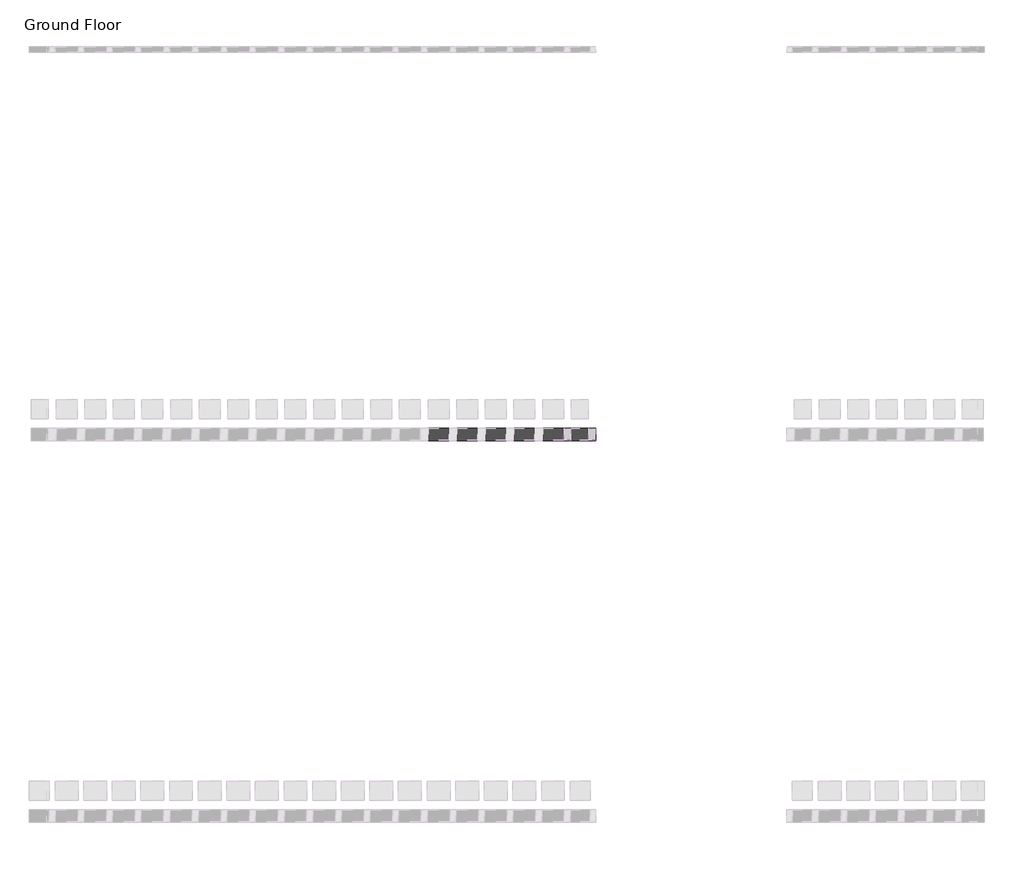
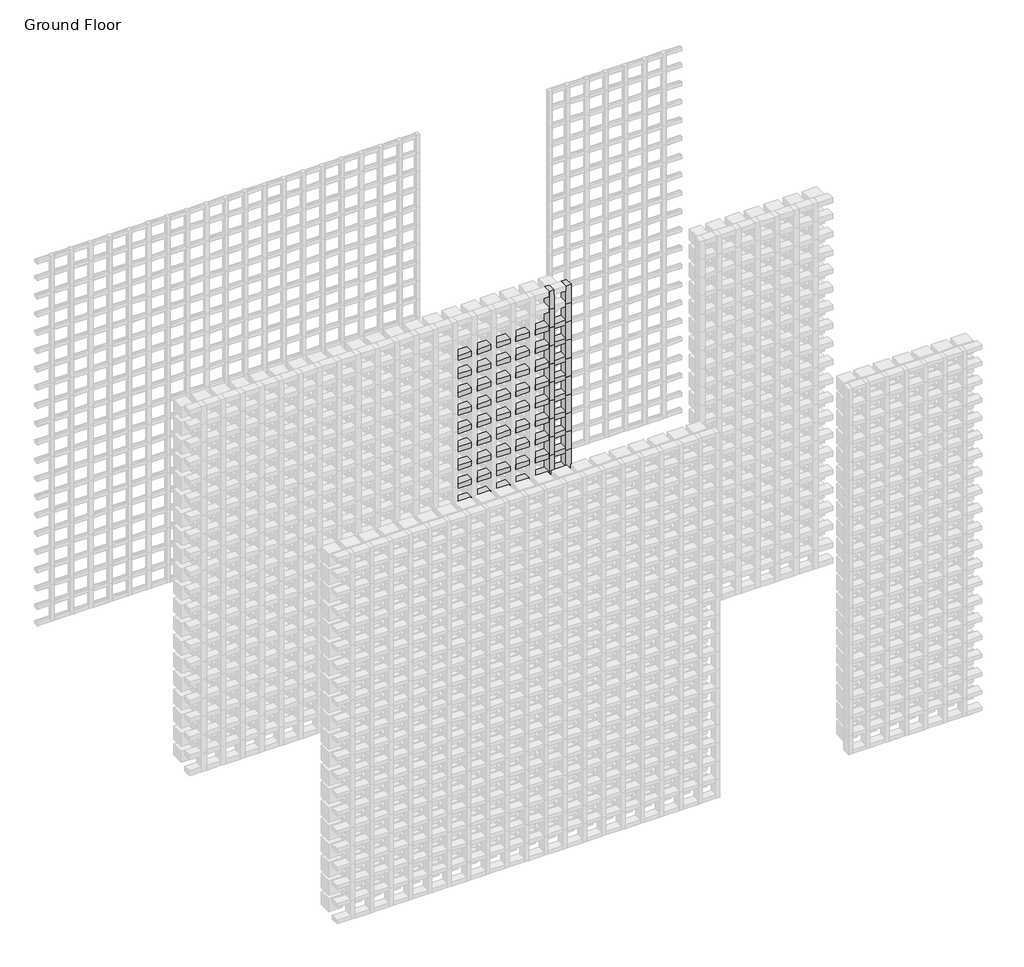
# One storey, part 93 of 350: 144 members.
"""IFC4 building model written with IfcOpenShell, lengths in millimetres."""

from ifc_helpers import new_model, si_unit, origin, place, context, project, spatial, transform, mapped, element, save
from components import rectangular_mullion_655930e9, rectangular_mullion_0b6a8654, rectangular_mullion_97e353d0, rectangular_mullion_f7732041

model = new_model("IFC4")

# Units and contexts
model_context = context("Model", 3, world=origin())
ifc_project = project(units=[si_unit("LENGTHUNIT", "METRE", prefix="MILLI")], contexts=[model_context])

# Site, building, storey
site = spatial("IfcSite", under=ifc_project)
building = spatial("IfcBuilding", under=site)
storey = spatial("IfcBuildingStorey", under=building, Name="Ground Floor", Elevation=0.0)

# Members
placement = place(None, origin())
rectangular_mullion_shape = rectangular_mullion_655930e9(model_context)
element("IfcMember", 1, ObjectType="Rectangular Mullion : Batten_Timber_Modinex_Austratus_Grid_Fascia_40x65_AlaskanYellowCedar", at=placement, inside=storey, context=model_context, shape_type="MappedRepresentation", body=[
    mapped(rectangular_mullion_shape, transform((4766.4361642, 40968.2978302, 450.0), x_axis=(1.0, 0.0, 0.0), y_axis=(0.0, -1.0, 0.0), z_axis=(0.0, 0.0, -1.0))),
])
element("IfcMember", 2, ObjectType="Rectangular Mullion : Batten_Timber_Modinex_Austratus_Grid_Fascia_40x65_AlaskanYellowCedar", at=placement, inside=storey, context=model_context, shape_type="MappedRepresentation", body=[
    mapped(rectangular_mullion_shape, transform((4766.4361642, 40968.2978302, 600.0), x_axis=(1.0, 0.0, 0.0), y_axis=(0.0, -1.0, 0.0), z_axis=(0.0, 0.0, -1.0))),
])
element("IfcMember", 3, ObjectType="Rectangular Mullion : Batten_Timber_Modinex_Austratus_Grid_Fascia_40x65_AlaskanYellowCedar", at=placement, inside=storey, context=model_context, shape_type="MappedRepresentation", body=[
    mapped(rectangular_mullion_shape, transform((4766.4361642, 40968.2978302, 750.0), x_axis=(1.0, 0.0, 0.0), y_axis=(0.0, -1.0, 0.0), z_axis=(0.0, 0.0, -1.0))),
])
element("IfcMember", 4, ObjectType="Rectangular Mullion : Batten_Timber_Modinex_Austratus_Grid_Fascia_40x65_AlaskanYellowCedar", at=placement, inside=storey, context=model_context, shape_type="MappedRepresentation", body=[
    mapped(rectangular_mullion_shape, transform((4766.4361642, 40968.2978302, 900.0), x_axis=(1.0, 0.0, 0.0), y_axis=(0.0, -1.0, 0.0), z_axis=(0.0, 0.0, -1.0))),
])
element("IfcMember", 5, ObjectType="Rectangular Mullion : Batten_Timber_Modinex_Austratus_Grid_Fascia_40x65_AlaskanYellowCedar", at=placement, inside=storey, context=model_context, shape_type="MappedRepresentation", body=[
    mapped(rectangular_mullion_shape, transform((4766.4361642, 40968.2978302, 1050.0), x_axis=(1.0, 0.0, 0.0), y_axis=(0.0, -1.0, 0.0), z_axis=(0.0, 0.0, -1.0))),
])
element("IfcMember", 6, ObjectType="Rectangular Mullion : Batten_Timber_Modinex_Austratus_Grid_Fascia_40x65_AlaskanYellowCedar", at=placement, inside=storey, context=model_context, shape_type="MappedRepresentation", body=[
    mapped(rectangular_mullion_shape, transform((4766.4361642, 40968.2978302, 1200.0), x_axis=(1.0, 0.0, 0.0), y_axis=(0.0, -1.0, 0.0), z_axis=(0.0, 0.0, -1.0))),
])
element("IfcMember", 7, ObjectType="Rectangular Mullion : Batten_Timber_Modinex_Austratus_Grid_Fascia_40x65_AlaskanYellowCedar", at=placement, inside=storey, context=model_context, shape_type="MappedRepresentation", body=[
    mapped(rectangular_mullion_shape, transform((4766.4361642, 40968.2978302, 1350.0), x_axis=(1.0, 0.0, 0.0), y_axis=(0.0, -1.0, 0.0), z_axis=(0.0, 0.0, -1.0))),
])
element("IfcMember", 8, ObjectType="Rectangular Mullion : Batten_Timber_Modinex_Austratus_Grid_Fascia_40x65_AlaskanYellowCedar", at=placement, inside=storey, context=model_context, shape_type="MappedRepresentation", body=[
    mapped(rectangular_mullion_shape, transform((4766.4361642, 40968.2978302, 1500.0), x_axis=(1.0, 0.0, 0.0), y_axis=(0.0, -1.0, 0.0), z_axis=(0.0, 0.0, -1.0))),
])
element("IfcMember", 9, ObjectType="Rectangular Mullion : Batten_Timber_Modinex_Austratus_Grid_Fascia_40x65_AlaskanYellowCedar", at=placement, inside=storey, context=model_context, shape_type="MappedRepresentation", body=[
    mapped(rectangular_mullion_shape, transform((4766.4361642, 40968.2978302, 1650.0), x_axis=(1.0, 0.0, 0.0), y_axis=(0.0, -1.0, 0.0), z_axis=(0.0, 0.0, -1.0))),
])
element("IfcMember", 10, ObjectType="Rectangular Mullion : Batten_Timber_Modinex_Austratus_Grid_Fascia_40x65_AlaskanYellowCedar", at=placement, inside=storey, context=model_context, shape_type="MappedRepresentation", body=[
    mapped(rectangular_mullion_shape, transform((4766.4361642, 40968.2978302, 1800.0), x_axis=(1.0, 0.0, 0.0), y_axis=(0.0, -1.0, 0.0), z_axis=(0.0, 0.0, -1.0))),
])
element("IfcMember", 11, ObjectType="Rectangular Mullion : Batten_Timber_Modinex_Austratus_Grid_Fascia_40x65_AlaskanYellowCedar", at=placement, inside=storey, context=model_context, shape_type="MappedRepresentation", body=[
    mapped(rectangular_mullion_shape, transform((4766.4361642, 40968.2978302, 1950.0), x_axis=(1.0, 0.0, 0.0), y_axis=(0.0, -1.0, 0.0), z_axis=(0.0, 0.0, -1.0))),
])
element("IfcMember", 12, ObjectType="Rectangular Mullion : Batten_Timber_Modinex_Austratus_Grid_Fascia_40x65_AlaskanYellowCedar", at=placement, inside=storey, context=model_context, shape_type="MappedRepresentation", body=[
    mapped(rectangular_mullion_shape, transform((4766.4361642, 40968.2978302, 2100.0), x_axis=(1.0, 0.0, 0.0), y_axis=(0.0, -1.0, 0.0), z_axis=(0.0, 0.0, -1.0))),
])
element("IfcMember", 13, ObjectType="Rectangular Mullion : Batten_Timber_Modinex_Austratus_Grid_Fascia_40x65_AlaskanYellowCedar", at=placement, inside=storey, context=model_context, shape_type="MappedRepresentation", body=[
    mapped(rectangular_mullion_shape, transform((4766.4361642, 40968.2978302, 2250.0), x_axis=(1.0, 0.0, 0.0), y_axis=(0.0, -1.0, 0.0), z_axis=(0.0, 0.0, -1.0))),
])
element("IfcMember", 14, ObjectType="Rectangular Mullion : Batten_Timber_Modinex_Austratus_Grid_Fascia_40x65_AlaskanYellowCedar", at=placement, inside=storey, context=model_context, shape_type="MappedRepresentation", body=[
    mapped(rectangular_mullion_shape, transform((4766.4361642, 40968.2978302, 2400.0), x_axis=(1.0, 0.0, 0.0), y_axis=(0.0, -1.0, 0.0), z_axis=(0.0, 0.0, -1.0))),
])
element("IfcMember", 15, ObjectType="Rectangular Mullion : Batten_Timber_Modinex_Austratus_Grid_Fascia_40x65_AlaskanYellowCedar", at=placement, inside=storey, context=model_context, shape_type="MappedRepresentation", body=[
    mapped(rectangular_mullion_shape, transform((4766.4361642, 40968.2978302, 2550.0), x_axis=(1.0, 0.0, 0.0), y_axis=(0.0, -1.0, 0.0), z_axis=(0.0, 0.0, -1.0))),
])
element("IfcMember", 16, ObjectType="Rectangular Mullion : Batten_Timber_Modinex_Austratus_Grid_Fascia_40x65_AlaskanYellowCedar", at=placement, inside=storey, context=model_context, shape_type="MappedRepresentation", body=[
    mapped(rectangular_mullion_shape, transform((4766.4361642, 40968.2978302, 2700.0), x_axis=(1.0, 0.0, 0.0), y_axis=(0.0, -1.0, 0.0), z_axis=(0.0, 0.0, -1.0))),
])
element("IfcMember", 17, ObjectType="Rectangular Mullion : Batten_Timber_Modinex_Austratus_Grid_Fascia_40x65_AlaskanYellowCedar", at=placement, inside=storey, context=model_context, shape_type="MappedRepresentation", body=[
    mapped(rectangular_mullion_shape, transform((4766.4361642, 40968.2978302, 2850.0), x_axis=(1.0, 0.0, 0.0), y_axis=(0.0, -1.0, 0.0), z_axis=(0.0, 0.0, -1.0))),
])
rectangular_mullion_2_shape = rectangular_mullion_0b6a8654(model_context)
element("IfcMember", 18, ObjectType="Rectangular Mullion : Batten_Timber_Modinex_Austratus_Grid_Fascia_40x65_AlaskanYellowCedar", at=placement, inside=storey, context=model_context, shape_type="MappedRepresentation", body=[
    mapped(rectangular_mullion_2_shape, transform((4876.4361639, 40968.2978302, 150.0), x_axis=(0.0, 0.0, 1.0), y_axis=(0.0, -1.0, 0.0), z_axis=(1.0, 0.0, 0.0))),
])
element("IfcMember", 19, ObjectType="Rectangular Mullion : Batten_Timber_Modinex_Austratus_Grid_Fascia_40x65_AlaskanYellowCedar", at=placement, inside=storey, context=model_context, shape_type="MappedRepresentation", body=[
    mapped(rectangular_mullion_2_shape, transform((4876.4361639, 40968.2978302, 300.0), x_axis=(0.0, 0.0, 1.0), y_axis=(0.0, -1.0, 0.0), z_axis=(1.0, 0.0, 0.0))),
])
element("IfcMember", 20, ObjectType="Rectangular Mullion : Batten_Timber_Modinex_Austratus_Grid_Fascia_40x65_AlaskanYellowCedar", at=placement, inside=storey, context=model_context, shape_type="MappedRepresentation", body=[
    mapped(rectangular_mullion_2_shape, transform((4876.4361639, 40968.2978302, 450.0), x_axis=(0.0, 0.0, 1.0), y_axis=(0.0, -1.0, 0.0), z_axis=(1.0, 0.0, 0.0))),
])
element("IfcMember", 21, ObjectType="Rectangular Mullion : Batten_Timber_Modinex_Austratus_Grid_Fascia_40x65_AlaskanYellowCedar", at=placement, inside=storey, context=model_context, shape_type="MappedRepresentation", body=[
    mapped(rectangular_mullion_2_shape, transform((4876.4361639, 40968.2978302, 600.0), x_axis=(0.0, 0.0, 1.0), y_axis=(0.0, -1.0, 0.0), z_axis=(1.0, 0.0, 0.0))),
])
element("IfcMember", 22, ObjectType="Rectangular Mullion : Batten_Timber_Modinex_Austratus_Grid_Fascia_40x65_AlaskanYellowCedar", at=placement, inside=storey, context=model_context, shape_type="MappedRepresentation", body=[
    mapped(rectangular_mullion_2_shape, transform((4876.4361639, 40968.2978302, 750.0), x_axis=(0.0, 0.0, 1.0), y_axis=(0.0, -1.0, 0.0), z_axis=(1.0, 0.0, 0.0))),
])
element("IfcMember", 23, ObjectType="Rectangular Mullion : Batten_Timber_Modinex_Austratus_Grid_Fascia_40x65_AlaskanYellowCedar", at=placement, inside=storey, context=model_context, shape_type="MappedRepresentation", body=[
    mapped(rectangular_mullion_2_shape, transform((4876.4361639, 40968.2978302, 900.0), x_axis=(0.0, 0.0, 1.0), y_axis=(0.0, -1.0, 0.0), z_axis=(1.0, 0.0, 0.0))),
])
element("IfcMember", 24, ObjectType="Rectangular Mullion : Batten_Timber_Modinex_Austratus_Grid_Fascia_40x65_AlaskanYellowCedar", at=placement, inside=storey, context=model_context, shape_type="MappedRepresentation", body=[
    mapped(rectangular_mullion_2_shape, transform((4876.4361639, 40968.2978302, 1050.0), x_axis=(0.0, 0.0, 1.0), y_axis=(0.0, -1.0, 0.0), z_axis=(1.0, 0.0, 0.0))),
])
element("IfcMember", 25, ObjectType="Rectangular Mullion : Batten_Timber_Modinex_Austratus_Grid_Fascia_40x65_AlaskanYellowCedar", at=placement, inside=storey, context=model_context, shape_type="MappedRepresentation", body=[
    mapped(rectangular_mullion_2_shape, transform((4876.4361639, 40968.2978302, 1200.0), x_axis=(0.0, 0.0, 1.0), y_axis=(0.0, -1.0, 0.0), z_axis=(1.0, 0.0, 0.0))),
])
element("IfcMember", 26, ObjectType="Rectangular Mullion : Batten_Timber_Modinex_Austratus_Grid_Fascia_40x65_AlaskanYellowCedar", at=placement, inside=storey, context=model_context, shape_type="MappedRepresentation", body=[
    mapped(rectangular_mullion_2_shape, transform((4876.4361639, 40968.2978302, 1350.0), x_axis=(0.0, 0.0, 1.0), y_axis=(0.0, -1.0, 0.0), z_axis=(1.0, 0.0, 0.0))),
])
element("IfcMember", 27, ObjectType="Rectangular Mullion : Batten_Timber_Modinex_Austratus_Grid_Fascia_40x65_AlaskanYellowCedar", at=placement, inside=storey, context=model_context, shape_type="MappedRepresentation", body=[
    mapped(rectangular_mullion_2_shape, transform((4876.4361639, 40968.2978302, 1500.0), x_axis=(0.0, 0.0, 1.0), y_axis=(0.0, -1.0, 0.0), z_axis=(1.0, 0.0, 0.0))),
])
element("IfcMember", 28, ObjectType="Rectangular Mullion : Batten_Timber_Modinex_Austratus_Grid_Fascia_40x65_AlaskanYellowCedar", at=placement, inside=storey, context=model_context, shape_type="MappedRepresentation", body=[
    mapped(rectangular_mullion_2_shape, transform((4876.4361639, 40968.2978302, 1650.0), x_axis=(0.0, 0.0, 1.0), y_axis=(0.0, -1.0, 0.0), z_axis=(1.0, 0.0, 0.0))),
])
element("IfcMember", 29, ObjectType="Rectangular Mullion : Batten_Timber_Modinex_Austratus_Grid_Fascia_40x65_AlaskanYellowCedar", at=placement, inside=storey, context=model_context, shape_type="MappedRepresentation", body=[
    mapped(rectangular_mullion_2_shape, transform((4876.4361639, 40968.2978302, 1800.0), x_axis=(0.0, 0.0, 1.0), y_axis=(0.0, -1.0, 0.0), z_axis=(1.0, 0.0, 0.0))),
])
element("IfcMember", 30, ObjectType="Rectangular Mullion : Batten_Timber_Modinex_Austratus_Grid_Fascia_40x65_AlaskanYellowCedar", at=placement, inside=storey, context=model_context, shape_type="MappedRepresentation", body=[
    mapped(rectangular_mullion_2_shape, transform((4876.4361639, 40968.2978302, 1950.0), x_axis=(0.0, 0.0, 1.0), y_axis=(0.0, -1.0, 0.0), z_axis=(1.0, 0.0, 0.0))),
])
element("IfcMember", 31, ObjectType="Rectangular Mullion : Batten_Timber_Modinex_Austratus_Grid_Fascia_40x65_AlaskanYellowCedar", at=placement, inside=storey, context=model_context, shape_type="MappedRepresentation", body=[
    mapped(rectangular_mullion_2_shape, transform((4876.4361639, 40968.2978302, 2100.0), x_axis=(0.0, 0.0, 1.0), y_axis=(0.0, -1.0, 0.0), z_axis=(1.0, 0.0, 0.0))),
])
element("IfcMember", 32, ObjectType="Rectangular Mullion : Batten_Timber_Modinex_Austratus_Grid_Fascia_40x65_AlaskanYellowCedar", at=placement, inside=storey, context=model_context, shape_type="MappedRepresentation", body=[
    mapped(rectangular_mullion_2_shape, transform((4876.4361639, 40968.2978302, 2250.0), x_axis=(0.0, 0.0, 1.0), y_axis=(0.0, -1.0, 0.0), z_axis=(1.0, 0.0, 0.0))),
])
element("IfcMember", 33, ObjectType="Rectangular Mullion : Batten_Timber_Modinex_Austratus_Grid_Fascia_40x65_AlaskanYellowCedar", at=placement, inside=storey, context=model_context, shape_type="MappedRepresentation", body=[
    mapped(rectangular_mullion_2_shape, transform((4876.4361639, 40968.2978302, 2400.0), x_axis=(0.0, 0.0, 1.0), y_axis=(0.0, -1.0, 0.0), z_axis=(1.0, 0.0, 0.0))),
])
element("IfcMember", 34, ObjectType="Rectangular Mullion : Batten_Timber_Modinex_Austratus_Grid_Fascia_40x65_AlaskanYellowCedar", at=placement, inside=storey, context=model_context, shape_type="MappedRepresentation", body=[
    mapped(rectangular_mullion_2_shape, transform((4876.4361639, 40968.2978302, 2550.0), x_axis=(0.0, 0.0, 1.0), y_axis=(0.0, -1.0, 0.0), z_axis=(1.0, 0.0, 0.0))),
])
element("IfcMember", 35, ObjectType="Rectangular Mullion : Batten_Timber_Modinex_Austratus_Grid_Fascia_40x65_AlaskanYellowCedar", at=placement, inside=storey, context=model_context, shape_type="MappedRepresentation", body=[
    mapped(rectangular_mullion_2_shape, transform((4876.4361639, 40968.2978302, 2700.0), x_axis=(0.0, 0.0, 1.0), y_axis=(0.0, -1.0, 0.0), z_axis=(1.0, 0.0, 0.0))),
])
rectangular_mullion_3_shape = rectangular_mullion_97e353d0(model_context)
element("IfcMember", 36, ObjectType="Rectangular Mullion : Batten_Timber_Modinex_Austratus_Grid_Fascia_40x65_AlaskanYellowCedar", at=placement, inside=storey, context=model_context, shape_type="MappedRepresentation", body=[
    mapped(rectangular_mullion_3_shape, transform((4146.4361642, 40968.2978302, 150.0), x_axis=(0.0, 0.0, 1.0), y_axis=(0.0, -1.0, 0.0), z_axis=(1.0, 0.0, 0.0))),
])
element("IfcMember", 37, ObjectType="Rectangular Mullion : Batten_Timber_Modinex_Austratus_Grid_Fascia_40x65_AlaskanYellowCedar", at=placement, inside=storey, context=model_context, shape_type="MappedRepresentation", body=[
    mapped(rectangular_mullion_3_shape, transform((4296.4361642, 40968.2978302, 150.0), x_axis=(0.0, 0.0, 1.0), y_axis=(0.0, -1.0, 0.0), z_axis=(1.0, 0.0, 0.0))),
])
element("IfcMember", 38, ObjectType="Rectangular Mullion : Batten_Timber_Modinex_Austratus_Grid_Fascia_40x65_AlaskanYellowCedar", at=placement, inside=storey, context=model_context, shape_type="MappedRepresentation", body=[
    mapped(rectangular_mullion_3_shape, transform((4446.4361642, 40968.2978302, 150.0), x_axis=(0.0, 0.0, 1.0), y_axis=(0.0, -1.0, 0.0), z_axis=(1.0, 0.0, 0.0))),
])
element("IfcMember", 39, ObjectType="Rectangular Mullion : Batten_Timber_Modinex_Austratus_Grid_Fascia_40x65_AlaskanYellowCedar", at=placement, inside=storey, context=model_context, shape_type="MappedRepresentation", body=[
    mapped(rectangular_mullion_3_shape, transform((4596.4361642, 40968.2978302, 150.0), x_axis=(0.0, 0.0, 1.0), y_axis=(0.0, -1.0, 0.0), z_axis=(1.0, 0.0, 0.0))),
])
element("IfcMember", 40, ObjectType="Rectangular Mullion : Batten_Timber_Modinex_Austratus_Grid_Fascia_40x65_AlaskanYellowCedar", at=placement, inside=storey, context=model_context, shape_type="MappedRepresentation", body=[
    mapped(rectangular_mullion_3_shape, transform((4746.4361642, 40968.2978302, 150.0), x_axis=(0.0, 0.0, 1.0), y_axis=(0.0, -1.0, 0.0), z_axis=(1.0, 0.0, 0.0))),
])
element("IfcMember", 41, ObjectType="Rectangular Mullion : Batten_Timber_Modinex_Austratus_Grid_Fascia_40x65_AlaskanYellowCedar", at=placement, inside=storey, context=model_context, shape_type="MappedRepresentation", body=[
    mapped(rectangular_mullion_3_shape, transform((4146.4361642, 40968.2978302, 300.0), x_axis=(0.0, 0.0, 1.0), y_axis=(0.0, -1.0, 0.0), z_axis=(1.0, 0.0, 0.0))),
])
element("IfcMember", 42, ObjectType="Rectangular Mullion : Batten_Timber_Modinex_Austratus_Grid_Fascia_40x65_AlaskanYellowCedar", at=placement, inside=storey, context=model_context, shape_type="MappedRepresentation", body=[
    mapped(rectangular_mullion_3_shape, transform((4296.4361642, 40968.2978302, 300.0), x_axis=(0.0, 0.0, 1.0), y_axis=(0.0, -1.0, 0.0), z_axis=(1.0, 0.0, 0.0))),
])
element("IfcMember", 43, ObjectType="Rectangular Mullion : Batten_Timber_Modinex_Austratus_Grid_Fascia_40x65_AlaskanYellowCedar", at=placement, inside=storey, context=model_context, shape_type="MappedRepresentation", body=[
    mapped(rectangular_mullion_3_shape, transform((4446.4361642, 40968.2978302, 300.0), x_axis=(0.0, 0.0, 1.0), y_axis=(0.0, -1.0, 0.0), z_axis=(1.0, 0.0, 0.0))),
])
element("IfcMember", 44, ObjectType="Rectangular Mullion : Batten_Timber_Modinex_Austratus_Grid_Fascia_40x65_AlaskanYellowCedar", at=placement, inside=storey, context=model_context, shape_type="MappedRepresentation", body=[
    mapped(rectangular_mullion_3_shape, transform((4596.4361642, 40968.2978302, 300.0), x_axis=(0.0, 0.0, 1.0), y_axis=(0.0, -1.0, 0.0), z_axis=(1.0, 0.0, 0.0))),
])
element("IfcMember", 45, ObjectType="Rectangular Mullion : Batten_Timber_Modinex_Austratus_Grid_Fascia_40x65_AlaskanYellowCedar", at=placement, inside=storey, context=model_context, shape_type="MappedRepresentation", body=[
    mapped(rectangular_mullion_3_shape, transform((4746.4361642, 40968.2978302, 300.0), x_axis=(0.0, 0.0, 1.0), y_axis=(0.0, -1.0, 0.0), z_axis=(1.0, 0.0, 0.0))),
])
element("IfcMember", 46, ObjectType="Rectangular Mullion : Batten_Timber_Modinex_Austratus_Grid_Fascia_40x65_AlaskanYellowCedar", at=placement, inside=storey, context=model_context, shape_type="MappedRepresentation", body=[
    mapped(rectangular_mullion_3_shape, transform((4146.4361642, 40968.2978302, 450.0), x_axis=(0.0, 0.0, 1.0), y_axis=(0.0, -1.0, 0.0), z_axis=(1.0, 0.0, 0.0))),
])
element("IfcMember", 47, ObjectType="Rectangular Mullion : Batten_Timber_Modinex_Austratus_Grid_Fascia_40x65_AlaskanYellowCedar", at=placement, inside=storey, context=model_context, shape_type="MappedRepresentation", body=[
    mapped(rectangular_mullion_3_shape, transform((4296.4361642, 40968.2978302, 450.0), x_axis=(0.0, 0.0, 1.0), y_axis=(0.0, -1.0, 0.0), z_axis=(1.0, 0.0, 0.0))),
])
element("IfcMember", 48, ObjectType="Rectangular Mullion : Batten_Timber_Modinex_Austratus_Grid_Fascia_40x65_AlaskanYellowCedar", at=placement, inside=storey, context=model_context, shape_type="MappedRepresentation", body=[
    mapped(rectangular_mullion_3_shape, transform((4446.4361642, 40968.2978302, 450.0), x_axis=(0.0, 0.0, 1.0), y_axis=(0.0, -1.0, 0.0), z_axis=(1.0, 0.0, 0.0))),
])
element("IfcMember", 49, ObjectType="Rectangular Mullion : Batten_Timber_Modinex_Austratus_Grid_Fascia_40x65_AlaskanYellowCedar", at=placement, inside=storey, context=model_context, shape_type="MappedRepresentation", body=[
    mapped(rectangular_mullion_3_shape, transform((4596.4361642, 40968.2978302, 450.0), x_axis=(0.0, 0.0, 1.0), y_axis=(0.0, -1.0, 0.0), z_axis=(1.0, 0.0, 0.0))),
])
element("IfcMember", 50, ObjectType="Rectangular Mullion : Batten_Timber_Modinex_Austratus_Grid_Fascia_40x65_AlaskanYellowCedar", at=placement, inside=storey, context=model_context, shape_type="MappedRepresentation", body=[
    mapped(rectangular_mullion_3_shape, transform((4746.4361642, 40968.2978302, 450.0), x_axis=(0.0, 0.0, 1.0), y_axis=(0.0, -1.0, 0.0), z_axis=(1.0, 0.0, 0.0))),
])
element("IfcMember", 51, ObjectType="Rectangular Mullion : Batten_Timber_Modinex_Austratus_Grid_Fascia_40x65_AlaskanYellowCedar", at=placement, inside=storey, context=model_context, shape_type="MappedRepresentation", body=[
    mapped(rectangular_mullion_3_shape, transform((4146.4361642, 40968.2978302, 600.0), x_axis=(0.0, 0.0, 1.0), y_axis=(0.0, -1.0, 0.0), z_axis=(1.0, 0.0, 0.0))),
])
element("IfcMember", 52, ObjectType="Rectangular Mullion : Batten_Timber_Modinex_Austratus_Grid_Fascia_40x65_AlaskanYellowCedar", at=placement, inside=storey, context=model_context, shape_type="MappedRepresentation", body=[
    mapped(rectangular_mullion_3_shape, transform((4296.4361642, 40968.2978302, 600.0), x_axis=(0.0, 0.0, 1.0), y_axis=(0.0, -1.0, 0.0), z_axis=(1.0, 0.0, 0.0))),
])
element("IfcMember", 53, ObjectType="Rectangular Mullion : Batten_Timber_Modinex_Austratus_Grid_Fascia_40x65_AlaskanYellowCedar", at=placement, inside=storey, context=model_context, shape_type="MappedRepresentation", body=[
    mapped(rectangular_mullion_3_shape, transform((4446.4361642, 40968.2978302, 600.0), x_axis=(0.0, 0.0, 1.0), y_axis=(0.0, -1.0, 0.0), z_axis=(1.0, 0.0, 0.0))),
])
element("IfcMember", 54, ObjectType="Rectangular Mullion : Batten_Timber_Modinex_Austratus_Grid_Fascia_40x65_AlaskanYellowCedar", at=placement, inside=storey, context=model_context, shape_type="MappedRepresentation", body=[
    mapped(rectangular_mullion_3_shape, transform((4596.4361642, 40968.2978302, 600.0), x_axis=(0.0, 0.0, 1.0), y_axis=(0.0, -1.0, 0.0), z_axis=(1.0, 0.0, 0.0))),
])
element("IfcMember", 55, ObjectType="Rectangular Mullion : Batten_Timber_Modinex_Austratus_Grid_Fascia_40x65_AlaskanYellowCedar", at=placement, inside=storey, context=model_context, shape_type="MappedRepresentation", body=[
    mapped(rectangular_mullion_3_shape, transform((4746.4361642, 40968.2978302, 600.0), x_axis=(0.0, 0.0, 1.0), y_axis=(0.0, -1.0, 0.0), z_axis=(1.0, 0.0, 0.0))),
])
element("IfcMember", 56, ObjectType="Rectangular Mullion : Batten_Timber_Modinex_Austratus_Grid_Fascia_40x65_AlaskanYellowCedar", at=placement, inside=storey, context=model_context, shape_type="MappedRepresentation", body=[
    mapped(rectangular_mullion_3_shape, transform((4146.4361642, 40968.2978302, 750.0), x_axis=(0.0, 0.0, 1.0), y_axis=(0.0, -1.0, 0.0), z_axis=(1.0, 0.0, 0.0))),
])
element("IfcMember", 57, ObjectType="Rectangular Mullion : Batten_Timber_Modinex_Austratus_Grid_Fascia_40x65_AlaskanYellowCedar", at=placement, inside=storey, context=model_context, shape_type="MappedRepresentation", body=[
    mapped(rectangular_mullion_3_shape, transform((4296.4361642, 40968.2978302, 750.0), x_axis=(0.0, 0.0, 1.0), y_axis=(0.0, -1.0, 0.0), z_axis=(1.0, 0.0, 0.0))),
])
element("IfcMember", 58, ObjectType="Rectangular Mullion : Batten_Timber_Modinex_Austratus_Grid_Fascia_40x65_AlaskanYellowCedar", at=placement, inside=storey, context=model_context, shape_type="MappedRepresentation", body=[
    mapped(rectangular_mullion_3_shape, transform((4446.4361642, 40968.2978302, 750.0), x_axis=(0.0, 0.0, 1.0), y_axis=(0.0, -1.0, 0.0), z_axis=(1.0, 0.0, 0.0))),
])
element("IfcMember", 59, ObjectType="Rectangular Mullion : Batten_Timber_Modinex_Austratus_Grid_Fascia_40x65_AlaskanYellowCedar", at=placement, inside=storey, context=model_context, shape_type="MappedRepresentation", body=[
    mapped(rectangular_mullion_3_shape, transform((4596.4361642, 40968.2978302, 750.0), x_axis=(0.0, 0.0, 1.0), y_axis=(0.0, -1.0, 0.0), z_axis=(1.0, 0.0, 0.0))),
])
element("IfcMember", 60, ObjectType="Rectangular Mullion : Batten_Timber_Modinex_Austratus_Grid_Fascia_40x65_AlaskanYellowCedar", at=placement, inside=storey, context=model_context, shape_type="MappedRepresentation", body=[
    mapped(rectangular_mullion_3_shape, transform((4746.4361642, 40968.2978302, 750.0), x_axis=(0.0, 0.0, 1.0), y_axis=(0.0, -1.0, 0.0), z_axis=(1.0, 0.0, 0.0))),
])
element("IfcMember", 61, ObjectType="Rectangular Mullion : Batten_Timber_Modinex_Austratus_Grid_Fascia_40x65_AlaskanYellowCedar", at=placement, inside=storey, context=model_context, shape_type="MappedRepresentation", body=[
    mapped(rectangular_mullion_3_shape, transform((4146.4361642, 40968.2978302, 900.0), x_axis=(0.0, 0.0, 1.0), y_axis=(0.0, -1.0, 0.0), z_axis=(1.0, 0.0, 0.0))),
])
element("IfcMember", 62, ObjectType="Rectangular Mullion : Batten_Timber_Modinex_Austratus_Grid_Fascia_40x65_AlaskanYellowCedar", at=placement, inside=storey, context=model_context, shape_type="MappedRepresentation", body=[
    mapped(rectangular_mullion_3_shape, transform((4296.4361642, 40968.2978302, 900.0), x_axis=(0.0, 0.0, 1.0), y_axis=(0.0, -1.0, 0.0), z_axis=(1.0, 0.0, 0.0))),
])
element("IfcMember", 63, ObjectType="Rectangular Mullion : Batten_Timber_Modinex_Austratus_Grid_Fascia_40x65_AlaskanYellowCedar", at=placement, inside=storey, context=model_context, shape_type="MappedRepresentation", body=[
    mapped(rectangular_mullion_3_shape, transform((4446.4361642, 40968.2978302, 900.0), x_axis=(0.0, 0.0, 1.0), y_axis=(0.0, -1.0, 0.0), z_axis=(1.0, 0.0, 0.0))),
])
element("IfcMember", 64, ObjectType="Rectangular Mullion : Batten_Timber_Modinex_Austratus_Grid_Fascia_40x65_AlaskanYellowCedar", at=placement, inside=storey, context=model_context, shape_type="MappedRepresentation", body=[
    mapped(rectangular_mullion_3_shape, transform((4596.4361642, 40968.2978302, 900.0), x_axis=(0.0, 0.0, 1.0), y_axis=(0.0, -1.0, 0.0), z_axis=(1.0, 0.0, 0.0))),
])
element("IfcMember", 65, ObjectType="Rectangular Mullion : Batten_Timber_Modinex_Austratus_Grid_Fascia_40x65_AlaskanYellowCedar", at=placement, inside=storey, context=model_context, shape_type="MappedRepresentation", body=[
    mapped(rectangular_mullion_3_shape, transform((4746.4361642, 40968.2978302, 900.0), x_axis=(0.0, 0.0, 1.0), y_axis=(0.0, -1.0, 0.0), z_axis=(1.0, 0.0, 0.0))),
])
element("IfcMember", 66, ObjectType="Rectangular Mullion : Batten_Timber_Modinex_Austratus_Grid_Fascia_40x65_AlaskanYellowCedar", at=placement, inside=storey, context=model_context, shape_type="MappedRepresentation", body=[
    mapped(rectangular_mullion_3_shape, transform((4146.4361642, 40968.2978302, 1050.0), x_axis=(0.0, 0.0, 1.0), y_axis=(0.0, -1.0, 0.0), z_axis=(1.0, 0.0, 0.0))),
])
element("IfcMember", 67, ObjectType="Rectangular Mullion : Batten_Timber_Modinex_Austratus_Grid_Fascia_40x65_AlaskanYellowCedar", at=placement, inside=storey, context=model_context, shape_type="MappedRepresentation", body=[
    mapped(rectangular_mullion_3_shape, transform((4296.4361642, 40968.2978302, 1050.0), x_axis=(0.0, 0.0, 1.0), y_axis=(0.0, -1.0, 0.0), z_axis=(1.0, 0.0, 0.0))),
])
element("IfcMember", 68, ObjectType="Rectangular Mullion : Batten_Timber_Modinex_Austratus_Grid_Fascia_40x65_AlaskanYellowCedar", at=placement, inside=storey, context=model_context, shape_type="MappedRepresentation", body=[
    mapped(rectangular_mullion_3_shape, transform((4446.4361642, 40968.2978302, 1050.0), x_axis=(0.0, 0.0, 1.0), y_axis=(0.0, -1.0, 0.0), z_axis=(1.0, 0.0, 0.0))),
])
element("IfcMember", 69, ObjectType="Rectangular Mullion : Batten_Timber_Modinex_Austratus_Grid_Fascia_40x65_AlaskanYellowCedar", at=placement, inside=storey, context=model_context, shape_type="MappedRepresentation", body=[
    mapped(rectangular_mullion_3_shape, transform((4596.4361642, 40968.2978302, 1050.0), x_axis=(0.0, 0.0, 1.0), y_axis=(0.0, -1.0, 0.0), z_axis=(1.0, 0.0, 0.0))),
])
element("IfcMember", 70, ObjectType="Rectangular Mullion : Batten_Timber_Modinex_Austratus_Grid_Fascia_40x65_AlaskanYellowCedar", at=placement, inside=storey, context=model_context, shape_type="MappedRepresentation", body=[
    mapped(rectangular_mullion_3_shape, transform((4746.4361642, 40968.2978302, 1050.0), x_axis=(0.0, 0.0, 1.0), y_axis=(0.0, -1.0, 0.0), z_axis=(1.0, 0.0, 0.0))),
])
element("IfcMember", 71, ObjectType="Rectangular Mullion : Batten_Timber_Modinex_Austratus_Grid_Fascia_40x65_AlaskanYellowCedar", at=placement, inside=storey, context=model_context, shape_type="MappedRepresentation", body=[
    mapped(rectangular_mullion_3_shape, transform((4146.4361642, 40968.2978302, 1200.0), x_axis=(0.0, 0.0, 1.0), y_axis=(0.0, -1.0, 0.0), z_axis=(1.0, 0.0, 0.0))),
])
element("IfcMember", 72, ObjectType="Rectangular Mullion : Batten_Timber_Modinex_Austratus_Grid_Fascia_40x65_AlaskanYellowCedar", at=placement, inside=storey, context=model_context, shape_type="MappedRepresentation", body=[
    mapped(rectangular_mullion_3_shape, transform((4296.4361642, 40968.2978302, 1200.0), x_axis=(0.0, 0.0, 1.0), y_axis=(0.0, -1.0, 0.0), z_axis=(1.0, 0.0, 0.0))),
])
element("IfcMember", 73, ObjectType="Rectangular Mullion : Batten_Timber_Modinex_Austratus_Grid_Fascia_40x65_AlaskanYellowCedar", at=placement, inside=storey, context=model_context, shape_type="MappedRepresentation", body=[
    mapped(rectangular_mullion_3_shape, transform((4446.4361642, 40968.2978302, 1200.0), x_axis=(0.0, 0.0, 1.0), y_axis=(0.0, -1.0, 0.0), z_axis=(1.0, 0.0, 0.0))),
])
element("IfcMember", 74, ObjectType="Rectangular Mullion : Batten_Timber_Modinex_Austratus_Grid_Fascia_40x65_AlaskanYellowCedar", at=placement, inside=storey, context=model_context, shape_type="MappedRepresentation", body=[
    mapped(rectangular_mullion_3_shape, transform((4596.4361642, 40968.2978302, 1200.0), x_axis=(0.0, 0.0, 1.0), y_axis=(0.0, -1.0, 0.0), z_axis=(1.0, 0.0, 0.0))),
])
element("IfcMember", 75, ObjectType="Rectangular Mullion : Batten_Timber_Modinex_Austratus_Grid_Fascia_40x65_AlaskanYellowCedar", at=placement, inside=storey, context=model_context, shape_type="MappedRepresentation", body=[
    mapped(rectangular_mullion_3_shape, transform((4746.4361642, 40968.2978302, 1200.0), x_axis=(0.0, 0.0, 1.0), y_axis=(0.0, -1.0, 0.0), z_axis=(1.0, 0.0, 0.0))),
])
element("IfcMember", 76, ObjectType="Rectangular Mullion : Batten_Timber_Modinex_Austratus_Grid_Fascia_40x65_AlaskanYellowCedar", at=placement, inside=storey, context=model_context, shape_type="MappedRepresentation", body=[
    mapped(rectangular_mullion_3_shape, transform((4146.4361642, 40968.2978302, 1350.0), x_axis=(0.0, 0.0, 1.0), y_axis=(0.0, -1.0, 0.0), z_axis=(1.0, 0.0, 0.0))),
])
element("IfcMember", 77, ObjectType="Rectangular Mullion : Batten_Timber_Modinex_Austratus_Grid_Fascia_40x65_AlaskanYellowCedar", at=placement, inside=storey, context=model_context, shape_type="MappedRepresentation", body=[
    mapped(rectangular_mullion_3_shape, transform((4296.4361642, 40968.2978302, 1350.0), x_axis=(0.0, 0.0, 1.0), y_axis=(0.0, -1.0, 0.0), z_axis=(1.0, 0.0, 0.0))),
])
element("IfcMember", 78, ObjectType="Rectangular Mullion : Batten_Timber_Modinex_Austratus_Grid_Fascia_40x65_AlaskanYellowCedar", at=placement, inside=storey, context=model_context, shape_type="MappedRepresentation", body=[
    mapped(rectangular_mullion_3_shape, transform((4446.4361642, 40968.2978302, 1350.0), x_axis=(0.0, 0.0, 1.0), y_axis=(0.0, -1.0, 0.0), z_axis=(1.0, 0.0, 0.0))),
])
element("IfcMember", 79, ObjectType="Rectangular Mullion : Batten_Timber_Modinex_Austratus_Grid_Fascia_40x65_AlaskanYellowCedar", at=placement, inside=storey, context=model_context, shape_type="MappedRepresentation", body=[
    mapped(rectangular_mullion_3_shape, transform((4596.4361642, 40968.2978302, 1350.0), x_axis=(0.0, 0.0, 1.0), y_axis=(0.0, -1.0, 0.0), z_axis=(1.0, 0.0, 0.0))),
])
element("IfcMember", 80, ObjectType="Rectangular Mullion : Batten_Timber_Modinex_Austratus_Grid_Fascia_40x65_AlaskanYellowCedar", at=placement, inside=storey, context=model_context, shape_type="MappedRepresentation", body=[
    mapped(rectangular_mullion_3_shape, transform((4746.4361642, 40968.2978302, 1350.0), x_axis=(0.0, 0.0, 1.0), y_axis=(0.0, -1.0, 0.0), z_axis=(1.0, 0.0, 0.0))),
])
element("IfcMember", 81, ObjectType="Rectangular Mullion : Batten_Timber_Modinex_Austratus_Grid_Fascia_40x65_AlaskanYellowCedar", at=placement, inside=storey, context=model_context, shape_type="MappedRepresentation", body=[
    mapped(rectangular_mullion_3_shape, transform((4146.4361642, 40968.2978302, 1500.0), x_axis=(0.0, 0.0, 1.0), y_axis=(0.0, -1.0, 0.0), z_axis=(1.0, 0.0, 0.0))),
])
element("IfcMember", 82, ObjectType="Rectangular Mullion : Batten_Timber_Modinex_Austratus_Grid_Fascia_40x65_AlaskanYellowCedar", at=placement, inside=storey, context=model_context, shape_type="MappedRepresentation", body=[
    mapped(rectangular_mullion_3_shape, transform((4296.4361642, 40968.2978302, 1500.0), x_axis=(0.0, 0.0, 1.0), y_axis=(0.0, -1.0, 0.0), z_axis=(1.0, 0.0, 0.0))),
])
element("IfcMember", 83, ObjectType="Rectangular Mullion : Batten_Timber_Modinex_Austratus_Grid_Fascia_40x65_AlaskanYellowCedar", at=placement, inside=storey, context=model_context, shape_type="MappedRepresentation", body=[
    mapped(rectangular_mullion_3_shape, transform((4446.4361642, 40968.2978302, 1500.0), x_axis=(0.0, 0.0, 1.0), y_axis=(0.0, -1.0, 0.0), z_axis=(1.0, 0.0, 0.0))),
])
element("IfcMember", 84, ObjectType="Rectangular Mullion : Batten_Timber_Modinex_Austratus_Grid_Fascia_40x65_AlaskanYellowCedar", at=placement, inside=storey, context=model_context, shape_type="MappedRepresentation", body=[
    mapped(rectangular_mullion_3_shape, transform((4596.4361642, 40968.2978302, 1500.0), x_axis=(0.0, 0.0, 1.0), y_axis=(0.0, -1.0, 0.0), z_axis=(1.0, 0.0, 0.0))),
])
element("IfcMember", 85, ObjectType="Rectangular Mullion : Batten_Timber_Modinex_Austratus_Grid_Fascia_40x65_AlaskanYellowCedar", at=placement, inside=storey, context=model_context, shape_type="MappedRepresentation", body=[
    mapped(rectangular_mullion_3_shape, transform((4746.4361642, 40968.2978302, 1500.0), x_axis=(0.0, 0.0, 1.0), y_axis=(0.0, -1.0, 0.0), z_axis=(1.0, 0.0, 0.0))),
])
element("IfcMember", 86, ObjectType="Rectangular Mullion : Batten_Timber_Modinex_Austratus_Grid_Fascia_40x65_AlaskanYellowCedar", at=placement, inside=storey, context=model_context, shape_type="MappedRepresentation", body=[
    mapped(rectangular_mullion_3_shape, transform((4146.4361642, 40968.2978302, 1650.0), x_axis=(0.0, 0.0, 1.0), y_axis=(0.0, -1.0, 0.0), z_axis=(1.0, 0.0, 0.0))),
])
element("IfcMember", 87, ObjectType="Rectangular Mullion : Batten_Timber_Modinex_Austratus_Grid_Fascia_40x65_AlaskanYellowCedar", at=placement, inside=storey, context=model_context, shape_type="MappedRepresentation", body=[
    mapped(rectangular_mullion_3_shape, transform((4296.4361642, 40968.2978302, 1650.0), x_axis=(0.0, 0.0, 1.0), y_axis=(0.0, -1.0, 0.0), z_axis=(1.0, 0.0, 0.0))),
])
element("IfcMember", 88, ObjectType="Rectangular Mullion : Batten_Timber_Modinex_Austratus_Grid_Fascia_40x65_AlaskanYellowCedar", at=placement, inside=storey, context=model_context, shape_type="MappedRepresentation", body=[
    mapped(rectangular_mullion_3_shape, transform((4446.4361642, 40968.2978302, 1650.0), x_axis=(0.0, 0.0, 1.0), y_axis=(0.0, -1.0, 0.0), z_axis=(1.0, 0.0, 0.0))),
])
element("IfcMember", 89, ObjectType="Rectangular Mullion : Batten_Timber_Modinex_Austratus_Grid_Fascia_40x65_AlaskanYellowCedar", at=placement, inside=storey, context=model_context, shape_type="MappedRepresentation", body=[
    mapped(rectangular_mullion_3_shape, transform((4596.4361642, 40968.2978302, 1650.0), x_axis=(0.0, 0.0, 1.0), y_axis=(0.0, -1.0, 0.0), z_axis=(1.0, 0.0, 0.0))),
])
element("IfcMember", 90, ObjectType="Rectangular Mullion : Batten_Timber_Modinex_Austratus_Grid_Fascia_40x65_AlaskanYellowCedar", at=placement, inside=storey, context=model_context, shape_type="MappedRepresentation", body=[
    mapped(rectangular_mullion_3_shape, transform((4746.4361642, 40968.2978302, 1650.0), x_axis=(0.0, 0.0, 1.0), y_axis=(0.0, -1.0, 0.0), z_axis=(1.0, 0.0, 0.0))),
])
element("IfcMember", 91, ObjectType="Rectangular Mullion : Batten_Timber_Modinex_Austratus_Grid_Fascia_40x65_AlaskanYellowCedar", at=placement, inside=storey, context=model_context, shape_type="MappedRepresentation", body=[
    mapped(rectangular_mullion_3_shape, transform((4146.4361642, 40968.2978302, 1800.0), x_axis=(0.0, 0.0, 1.0), y_axis=(0.0, -1.0, 0.0), z_axis=(1.0, 0.0, 0.0))),
])
element("IfcMember", 92, ObjectType="Rectangular Mullion : Batten_Timber_Modinex_Austratus_Grid_Fascia_40x65_AlaskanYellowCedar", at=placement, inside=storey, context=model_context, shape_type="MappedRepresentation", body=[
    mapped(rectangular_mullion_3_shape, transform((4296.4361642, 40968.2978302, 1800.0), x_axis=(0.0, 0.0, 1.0), y_axis=(0.0, -1.0, 0.0), z_axis=(1.0, 0.0, 0.0))),
])
element("IfcMember", 93, ObjectType="Rectangular Mullion : Batten_Timber_Modinex_Austratus_Grid_Fascia_40x65_AlaskanYellowCedar", at=placement, inside=storey, context=model_context, shape_type="MappedRepresentation", body=[
    mapped(rectangular_mullion_3_shape, transform((4446.4361642, 40968.2978302, 1800.0), x_axis=(0.0, 0.0, 1.0), y_axis=(0.0, -1.0, 0.0), z_axis=(1.0, 0.0, 0.0))),
])
element("IfcMember", 94, ObjectType="Rectangular Mullion : Batten_Timber_Modinex_Austratus_Grid_Fascia_40x65_AlaskanYellowCedar", at=placement, inside=storey, context=model_context, shape_type="MappedRepresentation", body=[
    mapped(rectangular_mullion_3_shape, transform((4596.4361642, 40968.2978302, 1800.0), x_axis=(0.0, 0.0, 1.0), y_axis=(0.0, -1.0, 0.0), z_axis=(1.0, 0.0, 0.0))),
])
element("IfcMember", 95, ObjectType="Rectangular Mullion : Batten_Timber_Modinex_Austratus_Grid_Fascia_40x65_AlaskanYellowCedar", at=placement, inside=storey, context=model_context, shape_type="MappedRepresentation", body=[
    mapped(rectangular_mullion_3_shape, transform((4746.4361642, 40968.2978302, 1800.0), x_axis=(0.0, 0.0, 1.0), y_axis=(0.0, -1.0, 0.0), z_axis=(1.0, 0.0, 0.0))),
])
element("IfcMember", 96, ObjectType="Rectangular Mullion : Batten_Timber_Modinex_Austratus_Grid_Fascia_40x65_AlaskanYellowCedar", at=placement, inside=storey, context=model_context, shape_type="MappedRepresentation", body=[
    mapped(rectangular_mullion_3_shape, transform((4146.4361642, 40968.2978302, 1950.0), x_axis=(0.0, 0.0, 1.0), y_axis=(0.0, -1.0, 0.0), z_axis=(1.0, 0.0, 0.0))),
])
element("IfcMember", 97, ObjectType="Rectangular Mullion : Batten_Timber_Modinex_Austratus_Grid_Fascia_40x65_AlaskanYellowCedar", at=placement, inside=storey, context=model_context, shape_type="MappedRepresentation", body=[
    mapped(rectangular_mullion_3_shape, transform((4296.4361642, 40968.2978302, 1950.0), x_axis=(0.0, 0.0, 1.0), y_axis=(0.0, -1.0, 0.0), z_axis=(1.0, 0.0, 0.0))),
])
element("IfcMember", 98, ObjectType="Rectangular Mullion : Batten_Timber_Modinex_Austratus_Grid_Fascia_40x65_AlaskanYellowCedar", at=placement, inside=storey, context=model_context, shape_type="MappedRepresentation", body=[
    mapped(rectangular_mullion_3_shape, transform((4446.4361642, 40968.2978302, 1950.0), x_axis=(0.0, 0.0, 1.0), y_axis=(0.0, -1.0, 0.0), z_axis=(1.0, 0.0, 0.0))),
])
element("IfcMember", 99, ObjectType="Rectangular Mullion : Batten_Timber_Modinex_Austratus_Grid_Fascia_40x65_AlaskanYellowCedar", at=placement, inside=storey, context=model_context, shape_type="MappedRepresentation", body=[
    mapped(rectangular_mullion_3_shape, transform((4596.4361642, 40968.2978302, 1950.0), x_axis=(0.0, 0.0, 1.0), y_axis=(0.0, -1.0, 0.0), z_axis=(1.0, 0.0, 0.0))),
])
element("IfcMember", 100, ObjectType="Rectangular Mullion : Batten_Timber_Modinex_Austratus_Grid_Fascia_40x65_AlaskanYellowCedar", at=placement, inside=storey, context=model_context, shape_type="MappedRepresentation", body=[
    mapped(rectangular_mullion_3_shape, transform((4746.4361642, 40968.2978302, 1950.0), x_axis=(0.0, 0.0, 1.0), y_axis=(0.0, -1.0, 0.0), z_axis=(1.0, 0.0, 0.0))),
])
element("IfcMember", 101, ObjectType="Rectangular Mullion : Batten_Timber_Modinex_Austratus_Grid_Fascia_40x65_AlaskanYellowCedar", at=placement, inside=storey, context=model_context, shape_type="MappedRepresentation", body=[
    mapped(rectangular_mullion_3_shape, transform((4146.4361642, 40968.2978302, 2100.0), x_axis=(0.0, 0.0, 1.0), y_axis=(0.0, -1.0, 0.0), z_axis=(1.0, 0.0, 0.0))),
])
element("IfcMember", 102, ObjectType="Rectangular Mullion : Batten_Timber_Modinex_Austratus_Grid_Fascia_40x65_AlaskanYellowCedar", at=placement, inside=storey, context=model_context, shape_type="MappedRepresentation", body=[
    mapped(rectangular_mullion_3_shape, transform((4296.4361642, 40968.2978302, 2100.0), x_axis=(0.0, 0.0, 1.0), y_axis=(0.0, -1.0, 0.0), z_axis=(1.0, 0.0, 0.0))),
])
element("IfcMember", 103, ObjectType="Rectangular Mullion : Batten_Timber_Modinex_Austratus_Grid_Fascia_40x65_AlaskanYellowCedar", at=placement, inside=storey, context=model_context, shape_type="MappedRepresentation", body=[
    mapped(rectangular_mullion_3_shape, transform((4446.4361642, 40968.2978302, 2100.0), x_axis=(0.0, 0.0, 1.0), y_axis=(0.0, -1.0, 0.0), z_axis=(1.0, 0.0, 0.0))),
])
element("IfcMember", 104, ObjectType="Rectangular Mullion : Batten_Timber_Modinex_Austratus_Grid_Fascia_40x65_AlaskanYellowCedar", at=placement, inside=storey, context=model_context, shape_type="MappedRepresentation", body=[
    mapped(rectangular_mullion_3_shape, transform((4596.4361642, 40968.2978302, 2100.0), x_axis=(0.0, 0.0, 1.0), y_axis=(0.0, -1.0, 0.0), z_axis=(1.0, 0.0, 0.0))),
])
element("IfcMember", 105, ObjectType="Rectangular Mullion : Batten_Timber_Modinex_Austratus_Grid_Fascia_40x65_AlaskanYellowCedar", at=placement, inside=storey, context=model_context, shape_type="MappedRepresentation", body=[
    mapped(rectangular_mullion_3_shape, transform((4746.4361642, 40968.2978302, 2100.0), x_axis=(0.0, 0.0, 1.0), y_axis=(0.0, -1.0, 0.0), z_axis=(1.0, 0.0, 0.0))),
])
element("IfcMember", 106, ObjectType="Rectangular Mullion : Batten_Timber_Modinex_Austratus_Grid_Fascia_40x65_AlaskanYellowCedar", at=placement, inside=storey, context=model_context, shape_type="MappedRepresentation", body=[
    mapped(rectangular_mullion_3_shape, transform((4146.4361642, 40968.2978302, 2250.0), x_axis=(0.0, 0.0, 1.0), y_axis=(0.0, -1.0, 0.0), z_axis=(1.0, 0.0, 0.0))),
])
element("IfcMember", 107, ObjectType="Rectangular Mullion : Batten_Timber_Modinex_Austratus_Grid_Fascia_40x65_AlaskanYellowCedar", at=placement, inside=storey, context=model_context, shape_type="MappedRepresentation", body=[
    mapped(rectangular_mullion_3_shape, transform((4296.4361642, 40968.2978302, 2250.0), x_axis=(0.0, 0.0, 1.0), y_axis=(0.0, -1.0, 0.0), z_axis=(1.0, 0.0, 0.0))),
])
element("IfcMember", 108, ObjectType="Rectangular Mullion : Batten_Timber_Modinex_Austratus_Grid_Fascia_40x65_AlaskanYellowCedar", at=placement, inside=storey, context=model_context, shape_type="MappedRepresentation", body=[
    mapped(rectangular_mullion_3_shape, transform((4446.4361642, 40968.2978302, 2250.0), x_axis=(0.0, 0.0, 1.0), y_axis=(0.0, -1.0, 0.0), z_axis=(1.0, 0.0, 0.0))),
])
element("IfcMember", 109, ObjectType="Rectangular Mullion : Batten_Timber_Modinex_Austratus_Grid_Fascia_40x65_AlaskanYellowCedar", at=placement, inside=storey, context=model_context, shape_type="MappedRepresentation", body=[
    mapped(rectangular_mullion_3_shape, transform((4596.4361642, 40968.2978302, 2250.0), x_axis=(0.0, 0.0, 1.0), y_axis=(0.0, -1.0, 0.0), z_axis=(1.0, 0.0, 0.0))),
])
element("IfcMember", 110, ObjectType="Rectangular Mullion : Batten_Timber_Modinex_Austratus_Grid_Fascia_40x65_AlaskanYellowCedar", at=placement, inside=storey, context=model_context, shape_type="MappedRepresentation", body=[
    mapped(rectangular_mullion_3_shape, transform((4746.4361642, 40968.2978302, 2250.0), x_axis=(0.0, 0.0, 1.0), y_axis=(0.0, -1.0, 0.0), z_axis=(1.0, 0.0, 0.0))),
])
element("IfcMember", 111, ObjectType="Rectangular Mullion : Batten_Timber_Modinex_Austratus_Grid_Fascia_40x65_AlaskanYellowCedar", at=placement, inside=storey, context=model_context, shape_type="MappedRepresentation", body=[
    mapped(rectangular_mullion_3_shape, transform((4146.4361642, 40968.2978302, 2400.0), x_axis=(0.0, 0.0, 1.0), y_axis=(0.0, -1.0, 0.0), z_axis=(1.0, 0.0, 0.0))),
])
element("IfcMember", 112, ObjectType="Rectangular Mullion : Batten_Timber_Modinex_Austratus_Grid_Fascia_40x65_AlaskanYellowCedar", at=placement, inside=storey, context=model_context, shape_type="MappedRepresentation", body=[
    mapped(rectangular_mullion_3_shape, transform((4296.4361642, 40968.2978302, 2400.0), x_axis=(0.0, 0.0, 1.0), y_axis=(0.0, -1.0, 0.0), z_axis=(1.0, 0.0, 0.0))),
])
element("IfcMember", 113, ObjectType="Rectangular Mullion : Batten_Timber_Modinex_Austratus_Grid_Fascia_40x65_AlaskanYellowCedar", at=placement, inside=storey, context=model_context, shape_type="MappedRepresentation", body=[
    mapped(rectangular_mullion_3_shape, transform((4446.4361642, 40968.2978302, 2400.0), x_axis=(0.0, 0.0, 1.0), y_axis=(0.0, -1.0, 0.0), z_axis=(1.0, 0.0, 0.0))),
])
element("IfcMember", 114, ObjectType="Rectangular Mullion : Batten_Timber_Modinex_Austratus_Grid_Fascia_40x65_AlaskanYellowCedar", at=placement, inside=storey, context=model_context, shape_type="MappedRepresentation", body=[
    mapped(rectangular_mullion_3_shape, transform((4596.4361642, 40968.2978302, 2400.0), x_axis=(0.0, 0.0, 1.0), y_axis=(0.0, -1.0, 0.0), z_axis=(1.0, 0.0, 0.0))),
])
element("IfcMember", 115, ObjectType="Rectangular Mullion : Batten_Timber_Modinex_Austratus_Grid_Fascia_40x65_AlaskanYellowCedar", at=placement, inside=storey, context=model_context, shape_type="MappedRepresentation", body=[
    mapped(rectangular_mullion_3_shape, transform((4746.4361642, 40968.2978302, 2400.0), x_axis=(0.0, 0.0, 1.0), y_axis=(0.0, -1.0, 0.0), z_axis=(1.0, 0.0, 0.0))),
])
element("IfcMember", 116, ObjectType="Rectangular Mullion : Batten_Timber_Modinex_Austratus_Grid_Fascia_40x65_AlaskanYellowCedar", at=placement, inside=storey, context=model_context, shape_type="MappedRepresentation", body=[
    mapped(rectangular_mullion_3_shape, transform((4146.4361642, 40968.2978302, 2550.0), x_axis=(0.0, 0.0, 1.0), y_axis=(0.0, -1.0, 0.0), z_axis=(1.0, 0.0, 0.0))),
])
element("IfcMember", 117, ObjectType="Rectangular Mullion : Batten_Timber_Modinex_Austratus_Grid_Fascia_40x65_AlaskanYellowCedar", at=placement, inside=storey, context=model_context, shape_type="MappedRepresentation", body=[
    mapped(rectangular_mullion_3_shape, transform((4296.4361642, 40968.2978302, 2550.0), x_axis=(0.0, 0.0, 1.0), y_axis=(0.0, -1.0, 0.0), z_axis=(1.0, 0.0, 0.0))),
])
element("IfcMember", 118, ObjectType="Rectangular Mullion : Batten_Timber_Modinex_Austratus_Grid_Fascia_40x65_AlaskanYellowCedar", at=placement, inside=storey, context=model_context, shape_type="MappedRepresentation", body=[
    mapped(rectangular_mullion_3_shape, transform((4446.4361642, 40968.2978302, 2550.0), x_axis=(0.0, 0.0, 1.0), y_axis=(0.0, -1.0, 0.0), z_axis=(1.0, 0.0, 0.0))),
])
element("IfcMember", 119, ObjectType="Rectangular Mullion : Batten_Timber_Modinex_Austratus_Grid_Fascia_40x65_AlaskanYellowCedar", at=placement, inside=storey, context=model_context, shape_type="MappedRepresentation", body=[
    mapped(rectangular_mullion_3_shape, transform((4596.4361642, 40968.2978302, 2550.0), x_axis=(0.0, 0.0, 1.0), y_axis=(0.0, -1.0, 0.0), z_axis=(1.0, 0.0, 0.0))),
])
element("IfcMember", 120, ObjectType="Rectangular Mullion : Batten_Timber_Modinex_Austratus_Grid_Fascia_40x65_AlaskanYellowCedar", at=placement, inside=storey, context=model_context, shape_type="MappedRepresentation", body=[
    mapped(rectangular_mullion_3_shape, transform((4746.4361642, 40968.2978302, 2550.0), x_axis=(0.0, 0.0, 1.0), y_axis=(0.0, -1.0, 0.0), z_axis=(1.0, 0.0, 0.0))),
])
element("IfcMember", 121, ObjectType="Rectangular Mullion : Batten_Timber_Modinex_Austratus_Grid_Fascia_40x65_AlaskanYellowCedar", at=placement, inside=storey, context=model_context, shape_type="MappedRepresentation", body=[
    mapped(rectangular_mullion_3_shape, transform((4146.4361642, 40968.2978302, 2700.0), x_axis=(0.0, 0.0, 1.0), y_axis=(0.0, -1.0, 0.0), z_axis=(1.0, 0.0, 0.0))),
])
element("IfcMember", 122, ObjectType="Rectangular Mullion : Batten_Timber_Modinex_Austratus_Grid_Fascia_40x65_AlaskanYellowCedar", at=placement, inside=storey, context=model_context, shape_type="MappedRepresentation", body=[
    mapped(rectangular_mullion_3_shape, transform((4296.4361642, 40968.2978302, 2700.0), x_axis=(0.0, 0.0, 1.0), y_axis=(0.0, -1.0, 0.0), z_axis=(1.0, 0.0, 0.0))),
])
element("IfcMember", 123, ObjectType="Rectangular Mullion : Batten_Timber_Modinex_Austratus_Grid_Fascia_40x65_AlaskanYellowCedar", at=placement, inside=storey, context=model_context, shape_type="MappedRepresentation", body=[
    mapped(rectangular_mullion_3_shape, transform((4446.4361642, 40968.2978302, 2700.0), x_axis=(0.0, 0.0, 1.0), y_axis=(0.0, -1.0, 0.0), z_axis=(1.0, 0.0, 0.0))),
])
element("IfcMember", 124, ObjectType="Rectangular Mullion : Batten_Timber_Modinex_Austratus_Grid_Fascia_40x65_AlaskanYellowCedar", at=placement, inside=storey, context=model_context, shape_type="MappedRepresentation", body=[
    mapped(rectangular_mullion_3_shape, transform((4596.4361642, 40968.2978302, 2700.0), x_axis=(0.0, 0.0, 1.0), y_axis=(0.0, -1.0, 0.0), z_axis=(1.0, 0.0, 0.0))),
])
element("IfcMember", 125, ObjectType="Rectangular Mullion : Batten_Timber_Modinex_Austratus_Grid_Fascia_40x65_AlaskanYellowCedar", at=placement, inside=storey, context=model_context, shape_type="MappedRepresentation", body=[
    mapped(rectangular_mullion_3_shape, transform((4746.4361642, 40968.2978302, 2700.0), x_axis=(0.0, 0.0, 1.0), y_axis=(0.0, -1.0, 0.0), z_axis=(1.0, 0.0, 0.0))),
])
rectangular_mullion_4_shape = rectangular_mullion_f7732041(model_context)
element("IfcMember", 126, ObjectType="Rectangular Mullion : Batten_Timber_Modinex_Austratus_Grid_Fascia_40x65_AlaskanYellowCedar", at=placement, inside=storey, context=model_context, shape_type="MappedRepresentation", body=[
    mapped(rectangular_mullion_4_shape, transform((4916.4361639, 40968.2978302, 150.0), x_axis=(1.0, 0.0, 0.0), y_axis=(0.0, -1.0, 0.0), z_axis=(0.0, 0.0, -1.0))),
])
element("IfcMember", 127, ObjectType="Rectangular Mullion : Batten_Timber_Modinex_Austratus_Grid_Fascia_40x65_AlaskanYellowCedar", at=placement, inside=storey, context=model_context, shape_type="MappedRepresentation", body=[
    mapped(rectangular_mullion_4_shape, transform((4916.4361639, 40968.2978302, 300.0), x_axis=(1.0, 0.0, 0.0), y_axis=(0.0, -1.0, 0.0), z_axis=(0.0, 0.0, -1.0))),
])
element("IfcMember", 128, ObjectType="Rectangular Mullion : Batten_Timber_Modinex_Austratus_Grid_Fascia_40x65_AlaskanYellowCedar", at=placement, inside=storey, context=model_context, shape_type="MappedRepresentation", body=[
    mapped(rectangular_mullion_4_shape, transform((4916.4361639, 40968.2978302, 450.0), x_axis=(1.0, 0.0, 0.0), y_axis=(0.0, -1.0, 0.0), z_axis=(0.0, 0.0, -1.0))),
])
element("IfcMember", 129, ObjectType="Rectangular Mullion : Batten_Timber_Modinex_Austratus_Grid_Fascia_40x65_AlaskanYellowCedar", at=placement, inside=storey, context=model_context, shape_type="MappedRepresentation", body=[
    mapped(rectangular_mullion_4_shape, transform((4916.4361639, 40968.2978302, 600.0), x_axis=(1.0, 0.0, 0.0), y_axis=(0.0, -1.0, 0.0), z_axis=(0.0, 0.0, -1.0))),
])
element("IfcMember", 130, ObjectType="Rectangular Mullion : Batten_Timber_Modinex_Austratus_Grid_Fascia_40x65_AlaskanYellowCedar", at=placement, inside=storey, context=model_context, shape_type="MappedRepresentation", body=[
    mapped(rectangular_mullion_4_shape, transform((4916.4361639, 40968.2978302, 750.0), x_axis=(1.0, 0.0, 0.0), y_axis=(0.0, -1.0, 0.0), z_axis=(0.0, 0.0, -1.0))),
])
element("IfcMember", 131, ObjectType="Rectangular Mullion : Batten_Timber_Modinex_Austratus_Grid_Fascia_40x65_AlaskanYellowCedar", at=placement, inside=storey, context=model_context, shape_type="MappedRepresentation", body=[
    mapped(rectangular_mullion_4_shape, transform((4916.4361639, 40968.2978302, 900.0), x_axis=(1.0, 0.0, 0.0), y_axis=(0.0, -1.0, 0.0), z_axis=(0.0, 0.0, -1.0))),
])
element("IfcMember", 132, ObjectType="Rectangular Mullion : Batten_Timber_Modinex_Austratus_Grid_Fascia_40x65_AlaskanYellowCedar", at=placement, inside=storey, context=model_context, shape_type="MappedRepresentation", body=[
    mapped(rectangular_mullion_4_shape, transform((4916.4361639, 40968.2978302, 1050.0), x_axis=(1.0, 0.0, 0.0), y_axis=(0.0, -1.0, 0.0), z_axis=(0.0, 0.0, -1.0))),
])
element("IfcMember", 133, ObjectType="Rectangular Mullion : Batten_Timber_Modinex_Austratus_Grid_Fascia_40x65_AlaskanYellowCedar", at=placement, inside=storey, context=model_context, shape_type="MappedRepresentation", body=[
    mapped(rectangular_mullion_4_shape, transform((4916.4361639, 40968.2978302, 1200.0), x_axis=(1.0, 0.0, 0.0), y_axis=(0.0, -1.0, 0.0), z_axis=(0.0, 0.0, -1.0))),
])
element("IfcMember", 134, ObjectType="Rectangular Mullion : Batten_Timber_Modinex_Austratus_Grid_Fascia_40x65_AlaskanYellowCedar", at=placement, inside=storey, context=model_context, shape_type="MappedRepresentation", body=[
    mapped(rectangular_mullion_4_shape, transform((4916.4361639, 40968.2978302, 1350.0), x_axis=(1.0, 0.0, 0.0), y_axis=(0.0, -1.0, 0.0), z_axis=(0.0, 0.0, -1.0))),
])
element("IfcMember", 135, ObjectType="Rectangular Mullion : Batten_Timber_Modinex_Austratus_Grid_Fascia_40x65_AlaskanYellowCedar", at=placement, inside=storey, context=model_context, shape_type="MappedRepresentation", body=[
    mapped(rectangular_mullion_4_shape, transform((4916.4361639, 40968.2978302, 1500.0), x_axis=(1.0, 0.0, 0.0), y_axis=(0.0, -1.0, 0.0), z_axis=(0.0, 0.0, -1.0))),
])
element("IfcMember", 136, ObjectType="Rectangular Mullion : Batten_Timber_Modinex_Austratus_Grid_Fascia_40x65_AlaskanYellowCedar", at=placement, inside=storey, context=model_context, shape_type="MappedRepresentation", body=[
    mapped(rectangular_mullion_4_shape, transform((4916.4361639, 40968.2978302, 1650.0), x_axis=(1.0, 0.0, 0.0), y_axis=(0.0, -1.0, 0.0), z_axis=(0.0, 0.0, -1.0))),
])
element("IfcMember", 137, ObjectType="Rectangular Mullion : Batten_Timber_Modinex_Austratus_Grid_Fascia_40x65_AlaskanYellowCedar", at=placement, inside=storey, context=model_context, shape_type="MappedRepresentation", body=[
    mapped(rectangular_mullion_4_shape, transform((4916.4361639, 40968.2978302, 1800.0), x_axis=(1.0, 0.0, 0.0), y_axis=(0.0, -1.0, 0.0), z_axis=(0.0, 0.0, -1.0))),
])
element("IfcMember", 138, ObjectType="Rectangular Mullion : Batten_Timber_Modinex_Austratus_Grid_Fascia_40x65_AlaskanYellowCedar", at=placement, inside=storey, context=model_context, shape_type="MappedRepresentation", body=[
    mapped(rectangular_mullion_4_shape, transform((4916.4361639, 40968.2978302, 1950.0), x_axis=(1.0, 0.0, 0.0), y_axis=(0.0, -1.0, 0.0), z_axis=(0.0, 0.0, -1.0))),
])
element("IfcMember", 139, ObjectType="Rectangular Mullion : Batten_Timber_Modinex_Austratus_Grid_Fascia_40x65_AlaskanYellowCedar", at=placement, inside=storey, context=model_context, shape_type="MappedRepresentation", body=[
    mapped(rectangular_mullion_4_shape, transform((4916.4361639, 40968.2978302, 2100.0), x_axis=(1.0, 0.0, 0.0), y_axis=(0.0, -1.0, 0.0), z_axis=(0.0, 0.0, -1.0))),
])
element("IfcMember", 140, ObjectType="Rectangular Mullion : Batten_Timber_Modinex_Austratus_Grid_Fascia_40x65_AlaskanYellowCedar", at=placement, inside=storey, context=model_context, shape_type="MappedRepresentation", body=[
    mapped(rectangular_mullion_4_shape, transform((4916.4361639, 40968.2978302, 2250.0), x_axis=(1.0, 0.0, 0.0), y_axis=(0.0, -1.0, 0.0), z_axis=(0.0, 0.0, -1.0))),
])
element("IfcMember", 141, ObjectType="Rectangular Mullion : Batten_Timber_Modinex_Austratus_Grid_Fascia_40x65_AlaskanYellowCedar", at=placement, inside=storey, context=model_context, shape_type="MappedRepresentation", body=[
    mapped(rectangular_mullion_4_shape, transform((4916.4361639, 40968.2978302, 2400.0), x_axis=(1.0, 0.0, 0.0), y_axis=(0.0, -1.0, 0.0), z_axis=(0.0, 0.0, -1.0))),
])
element("IfcMember", 142, ObjectType="Rectangular Mullion : Batten_Timber_Modinex_Austratus_Grid_Fascia_40x65_AlaskanYellowCedar", at=placement, inside=storey, context=model_context, shape_type="MappedRepresentation", body=[
    mapped(rectangular_mullion_4_shape, transform((4916.4361639, 40968.2978302, 2550.0), x_axis=(1.0, 0.0, 0.0), y_axis=(0.0, -1.0, 0.0), z_axis=(0.0, 0.0, -1.0))),
])
element("IfcMember", 143, ObjectType="Rectangular Mullion : Batten_Timber_Modinex_Austratus_Grid_Fascia_40x65_AlaskanYellowCedar", at=placement, inside=storey, context=model_context, shape_type="MappedRepresentation", body=[
    mapped(rectangular_mullion_4_shape, transform((4916.4361639, 40968.2978302, 2700.0), x_axis=(1.0, 0.0, 0.0), y_axis=(0.0, -1.0, 0.0), z_axis=(0.0, 0.0, -1.0))),
])
element("IfcMember", 144, ObjectType="Rectangular Mullion : Batten_Timber_Modinex_Austratus_Grid_Fascia_40x65_AlaskanYellowCedar", at=placement, inside=storey, context=model_context, shape_type="MappedRepresentation", body=[
    mapped(rectangular_mullion_4_shape, transform((4916.4361639, 40968.2978302, 2850.0), x_axis=(1.0, 0.0, 0.0), y_axis=(0.0, -1.0, 0.0), z_axis=(0.0, 0.0, -1.0))),
])

save(model, "model.ifc")
